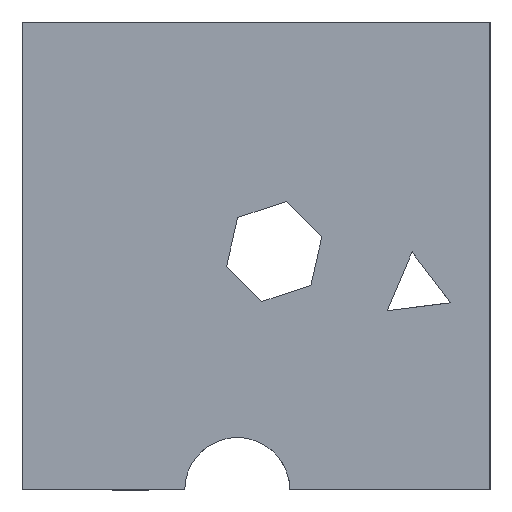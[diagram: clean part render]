
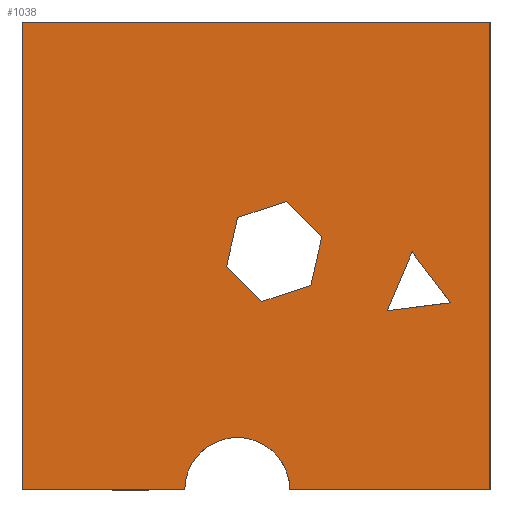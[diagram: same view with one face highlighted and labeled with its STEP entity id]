
A CAD part, left-side view. The second image highlights one B-rep face of the part: STEP entity #1038.
In plain terms, the highlighted planar face has unit normal (-1, 0, 0).
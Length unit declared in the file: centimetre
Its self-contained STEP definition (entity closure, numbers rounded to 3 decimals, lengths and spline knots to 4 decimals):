
#19 = ORIENTED_EDGE ( 'NONE', *, *, #522, .F. ) ;
#26 = VERTEX_POINT ( 'NONE', #698 ) ;
#52 = DIRECTION ( 'NONE',  ( 0., 0., -1. ) ) ;
#70 = EDGE_CURVE ( 'NONE', #957, #605, #758, .T. ) ;
#75 = DIRECTION ( 'NONE',  ( 1., 0., 0. ) ) ;
#82 = DIRECTION ( 'NONE',  ( 0., -0.604, -0.797 ) ) ;
#92 = VECTOR ( 'NONE', #1046, 100. ) ;
#93 = LINE ( 'NONE', #207, #152 ) ;
#94 = VERTEX_POINT ( 'NONE', #198 ) ;
#146 = CARTESIAN_POINT ( 'NONE',  ( 0., 539.9248, 0. ) ) ;
#152 = VECTOR ( 'NONE', #229, 100. ) ;
#177 = VERTEX_POINT ( 'NONE', #439 ) ;
#198 = CARTESIAN_POINT ( 'NONE',  ( 0., 0., 0. ) ) ;
#207 = CARTESIAN_POINT ( 'NONE',  ( 0., 539.1191, 582.0097 ) ) ;
#213 = CARTESIAN_POINT ( 'NONE',  ( 0., 1000., 1000. ) ) ;
#218 = LINE ( 'NONE', #1059, #92 ) ;
#229 = DIRECTION ( 'NONE',  ( 0., 0.223, -0.975 ) ) ;
#243 = VERTEX_POINT ( 'NONE', #1612 ) ;
#255 = EDGE_CURVE ( 'NONE', #416, #957, #1773, .T. ) ;
#270 = AXIS2_PLACEMENT_3D ( 'NONE', #213, #75, #1041 ) ;
#290 = ORIENTED_EDGE ( 'NONE', *, *, #70, .T. ) ;
#296 = ORIENTED_EDGE ( 'NONE', *, *, #610, .T. ) ;
#342 = EDGE_CURVE ( 'NONE', #430, #243, #1432, .T. ) ;
#348 = LINE ( 'NONE', #1049, #537 ) ;
#360 = VERTEX_POINT ( 'NONE', #576 ) ;
#366 = FACE_OUTER_BOUND ( 'NONE', #1531, .T. ) ;
#404 = ORIENTED_EDGE ( 'NONE', *, *, #1328, .F. ) ;
#406 = ORIENTED_EDGE ( 'NONE', *, *, #651, .F. ) ;
#416 = VERTEX_POINT ( 'NONE', #1742 ) ;
#430 = VERTEX_POINT ( 'NONE', #1163 ) ;
#432 = EDGE_CURVE ( 'NONE', #1263, #826, #502, .T. ) ;
#439 = CARTESIAN_POINT ( 'NONE',  ( 0., 0., 1000. ) ) ;
#467 = EDGE_LOOP ( 'NONE', ( #290, #670, #1398 ) ) ;
#483 = LINE ( 'NONE', #1295, #1001 ) ;
#501 = EDGE_CURVE ( 'NONE', #360, #1502, #812, .T. ) ;
#502 = LINE ( 'NONE', #1442, #1575 ) ;
#504 = CARTESIAN_POINT ( 'NONE',  ( 0., 562.8573, 478.1019 ) ) ;
#511 = VECTOR ( 'NONE', #52, 100. ) ;
#522 = EDGE_CURVE ( 'NONE', #26, #360, #483, .T. ) ;
#530 = EDGE_CURVE ( 'NONE', #605, #416, #1578, .T. ) ;
#533 = LINE ( 'NONE', #1080, #940 ) ;
#537 = VECTOR ( 'NONE', #902, 100. ) ;
#545 = EDGE_CURVE ( 'NONE', #943, #1092, #1652, .T. ) ;
#555 = DIRECTION ( 'NONE',  ( 0., -0.389, 0.921 ) ) ;
#572 = ORIENTED_EDGE ( 'NONE', *, *, #880, .F. ) ;
#576 = CARTESIAN_POINT ( 'NONE',  ( 0., 434.4602, 616.2087 ) ) ;
#588 = VERTEX_POINT ( 'NONE', #1042 ) ;
#601 = CARTESIAN_POINT ( 'NONE',  ( 0., 84.359, 400.0759 ) ) ;
#605 = VERTEX_POINT ( 'NONE', #1746 ) ;
#610 = EDGE_CURVE ( 'NONE', #243, #94, #348, .T. ) ;
#617 = EDGE_CURVE ( 'NONE', #1502, #588, #93, .T. ) ;
#633 = DIRECTION ( 'NONE',  ( 0., -0.707, -0.707 ) ) ;
#651 = EDGE_CURVE ( 'NONE', #588, #1263, #1321, .T. ) ;
#657 = DIRECTION ( 'NONE',  ( 0., -1., 0. ) ) ;
#670 = ORIENTED_EDGE ( 'NONE', *, *, #530, .T. ) ;
#683 = VECTOR ( 'NONE', #1557, 100. ) ;
#698 = CARTESIAN_POINT ( 'NONE',  ( 0., 359.1455, 540.894 ) ) ;
#755 = ORIENTED_EDGE ( 'NONE', *, *, #342, .T. ) ;
#758 = LINE ( 'NONE', #1579, #1227 ) ;
#776 = VECTOR ( 'NONE', #633, 100. ) ;
#812 = LINE ( 'NONE', #1214, #1033 ) ;
#822 = CARTESIAN_POINT ( 'NONE',  ( 0., 382.8837, 436.9862 ) ) ;
#826 = VERTEX_POINT ( 'NONE', #822 ) ;
#837 = DIRECTION ( 'NONE',  ( 0., -0.223, 0.975 ) ) ;
#875 = ORIENTED_EDGE ( 'NONE', *, *, #1616, .F. ) ;
#880 = EDGE_CURVE ( 'NONE', #177, #94, #1123, .T. ) ;
#898 = CARTESIAN_POINT ( 'NONE',  ( 0., 166.5911, 508.693 ) ) ;
#902 = DIRECTION ( 'NONE',  ( 0., -1., 0. ) ) ;
#917 = CARTESIAN_POINT ( 'NONE',  ( 0., 487.5425, 402.7872 ) ) ;
#921 = DIRECTION ( 'NONE',  ( 0., 0.951, -0.311 ) ) ;
#940 = VECTOR ( 'NONE', #837, 100. ) ;
#943 = VERTEX_POINT ( 'NONE', #1271 ) ;
#957 = VERTEX_POINT ( 'NONE', #601 ) ;
#963 = VECTOR ( 'NONE', #82, 100. ) ;
#972 = DIRECTION ( 'NONE',  ( 0., 0., -1. ) ) ;
#1001 = VECTOR ( 'NONE', #1035, 100. ) ;
#1018 = EDGE_LOOP ( 'NONE', ( #1600, #1133, #19, #404, #1344, #406 ) ) ;
#1033 = VECTOR ( 'NONE', #921, 100. ) ;
#1035 = DIRECTION ( 'NONE',  ( 0., 0.707, 0.707 ) ) ;
#1038 = ADVANCED_FACE ( 'NONE', ( #1332, #1310, #366 ), #1588, .F. ) ;
#1041 = DIRECTION ( 'NONE',  ( 0., 0., -1. ) ) ;
#1042 = CARTESIAN_POINT ( 'NONE',  ( 0., 562.8573, 478.1019 ) ) ;
#1046 = DIRECTION ( 'NONE',  ( 0., -1., 0. ) ) ;
#1049 = CARTESIAN_POINT ( 'NONE',  ( 0., 1000., 0. ) ) ;
#1055 = VECTOR ( 'NONE', #657, 100. ) ;
#1059 = CARTESIAN_POINT ( 'NONE',  ( 0., 1000., 0. ) ) ;
#1080 = CARTESIAN_POINT ( 'NONE',  ( 0., 382.8837, 436.9862 ) ) ;
#1092 = VERTEX_POINT ( 'NONE', #1115 ) ;
#1112 = AXIS2_PLACEMENT_3D ( 'NONE', #146, #1712, #972 ) ;
#1115 = CARTESIAN_POINT ( 'NONE',  ( 0., 1000., 0. ) ) ;
#1123 = LINE ( 'NONE', #1690, #683 ) ;
#1133 = ORIENTED_EDGE ( 'NONE', *, *, #501, .F. ) ;
#1163 = CARTESIAN_POINT ( 'NONE',  ( 0., 652.184, 0. ) ) ;
#1214 = CARTESIAN_POINT ( 'NONE',  ( 0., 434.4602, 616.2087 ) ) ;
#1227 = VECTOR ( 'NONE', #1739, 100. ) ;
#1243 = EDGE_CURVE ( 'NONE', #1092, #430, #218, .T. ) ;
#1256 = VECTOR ( 'NONE', #555, 100. ) ;
#1263 = VERTEX_POINT ( 'NONE', #917 ) ;
#1271 = CARTESIAN_POINT ( 'NONE',  ( 0., 1000., 1000. ) ) ;
#1295 = CARTESIAN_POINT ( 'NONE',  ( 0., 359.1455, 540.894 ) ) ;
#1310 = FACE_BOUND ( 'NONE', #1018, .T. ) ;
#1321 = LINE ( 'NONE', #504, #776 ) ;
#1328 = EDGE_CURVE ( 'NONE', #826, #26, #533, .T. ) ;
#1332 = FACE_BOUND ( 'NONE', #467, .T. ) ;
#1344 = ORIENTED_EDGE ( 'NONE', *, *, #432, .F. ) ;
#1378 = CARTESIAN_POINT ( 'NONE',  ( 0., 539.1191, 582.0097 ) ) ;
#1398 = ORIENTED_EDGE ( 'NONE', *, *, #255, .T. ) ;
#1432 = CIRCLE ( 'NONE', #1112, 112.2591 ) ;
#1442 = CARTESIAN_POINT ( 'NONE',  ( 0., 487.5425, 402.7872 ) ) ;
#1443 = CARTESIAN_POINT ( 'NONE',  ( 0., 1000., 1000. ) ) ;
#1487 = CARTESIAN_POINT ( 'NONE',  ( 0., 84.359, 400.0759 ) ) ;
#1502 = VERTEX_POINT ( 'NONE', #1378 ) ;
#1531 = EDGE_LOOP ( 'NONE', ( #1604, #755, #296, #572, #875, #1590 ) ) ;
#1557 = DIRECTION ( 'NONE',  ( 0., 0., -1. ) ) ;
#1575 = VECTOR ( 'NONE', #1751, 100. ) ;
#1578 = LINE ( 'NONE', #898, #1256 ) ;
#1579 = CARTESIAN_POINT ( 'NONE',  ( 0., 219.5402, 383.1694 ) ) ;
#1588 = PLANE ( 'NONE',  #270 ) ;
#1590 = ORIENTED_EDGE ( 'NONE', *, *, #545, .T. ) ;
#1597 = LINE ( 'NONE', #1607, #1055 ) ;
#1600 = ORIENTED_EDGE ( 'NONE', *, *, #617, .F. ) ;
#1604 = ORIENTED_EDGE ( 'NONE', *, *, #1243, .T. ) ;
#1607 = CARTESIAN_POINT ( 'NONE',  ( 0., 1000., 1000. ) ) ;
#1612 = CARTESIAN_POINT ( 'NONE',  ( 0., 427.6657, 0. ) ) ;
#1616 = EDGE_CURVE ( 'NONE', #943, #177, #1597, .T. ) ;
#1652 = LINE ( 'NONE', #1443, #511 ) ;
#1690 = CARTESIAN_POINT ( 'NONE',  ( 0., 0., 1000. ) ) ;
#1712 = DIRECTION ( 'NONE',  ( 1., 0., 0. ) ) ;
#1739 = DIRECTION ( 'NONE',  ( 0., 0.992, -0.124 ) ) ;
#1742 = CARTESIAN_POINT ( 'NONE',  ( 0., 166.5911, 508.693 ) ) ;
#1746 = CARTESIAN_POINT ( 'NONE',  ( 0., 219.5402, 383.1694 ) ) ;
#1751 = DIRECTION ( 'NONE',  ( 0., -0.951, 0.311 ) ) ;
#1773 = LINE ( 'NONE', #1487, #963 ) ;
